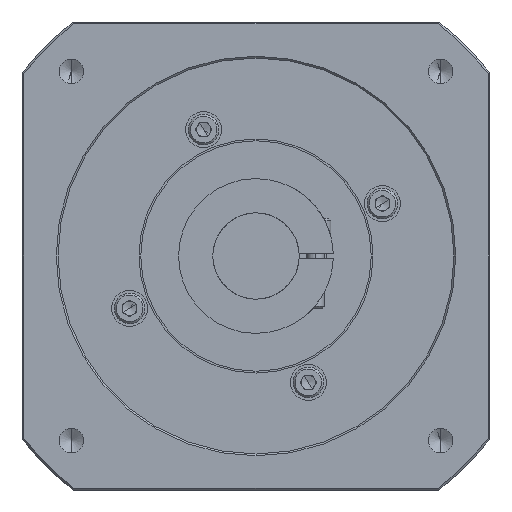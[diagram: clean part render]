
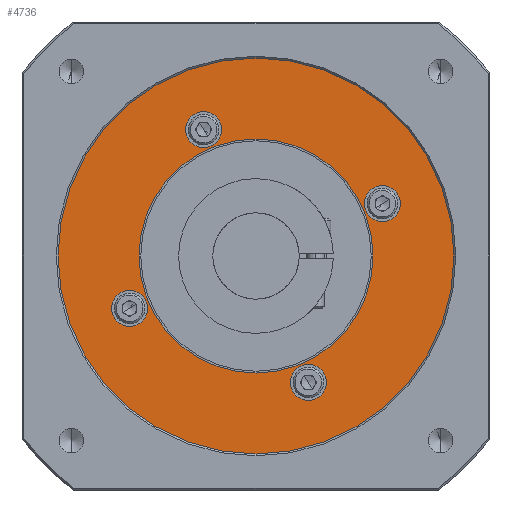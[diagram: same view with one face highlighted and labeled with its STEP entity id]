
A CAD part, front view. The second image highlights one B-rep face of the part: STEP entity #4736.
In plain terms, the highlighted planar face has unit normal (0, -1, 0).
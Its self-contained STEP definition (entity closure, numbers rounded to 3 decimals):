
#2039 = CARTESIAN_POINT ( 'NONE',  ( 35.107, 10., 19.542 ) ) ;
#2249 = CARTESIAN_POINT ( 'NONE',  ( -14.542, 10., 35.107 ) ) ;
#2264 = CARTESIAN_POINT ( 'NONE',  ( -14.542, 10., 30.107 ) ) ;
#2305 = DIRECTION ( 'NONE',  ( 0., 0., -1. ) ) ;
#2306 = DIRECTION ( 'NONE',  ( 0., -1., 0. ) ) ;
#2309 = AXIS2_PLACEMENT_3D ( 'NONE', #2249, #2306, #2305 ) ;
#2316 = CARTESIAN_POINT ( 'NONE',  ( -14.542, 10., 40.107 ) ) ;
#2322 = CIRCLE ( 'NONE', #2309, 5. ) ;
#3262 = VERTEX_POINT ( 'NONE', #7361 ) ;
#3280 = EDGE_CURVE ( 'NONE', #3262, #3294, #7254, .T. ) ;
#3294 = VERTEX_POINT ( 'NONE', #7594 ) ;
#3318 = VERTEX_POINT ( 'NONE', #7709 ) ;
#3322 = EDGE_CURVE ( 'NONE', #3467, #3318, #7665, .T. ) ;
#3323 = VERTEX_POINT ( 'NONE', #2264 ) ;
#3329 = EDGE_CURVE ( 'NONE', #3335, #3323, #2322, .T. ) ;
#3335 = VERTEX_POINT ( 'NONE', #2316 ) ;
#3467 = VERTEX_POINT ( 'NONE', #2039 ) ;
#3979 = EDGE_CURVE ( 'NONE', #4088, #4017, #6402, .T. ) ;
#4017 = VERTEX_POINT ( 'NONE', #4863 ) ;
#4088 = VERTEX_POINT ( 'NONE', #4965 ) ;
#4360 = EDGE_CURVE ( 'NONE', #4361, #4389, #5587, .T. ) ;
#4361 = VERTEX_POINT ( 'NONE', #5548 ) ;
#4389 = VERTEX_POINT ( 'NONE', #5746 ) ;
#4446 = VERTEX_POINT ( 'NONE', #5630 ) ;
#4448 = VERTEX_POINT ( 'NONE', #5629 ) ;
#4503 = EDGE_CURVE ( 'NONE', #4448, #4446, #5921, .T. ) ;
#4642 = EDGE_LOOP ( 'NONE', ( #4747, #4732 ) ) ;
#4686 = EDGE_LOOP ( 'NONE', ( #4750, #4728 ) ) ;
#4693 = EDGE_LOOP ( 'NONE', ( #4717, #4731 ) ) ;
#4716 = EDGE_LOOP ( 'NONE', ( #4727, #4754 ) ) ;
#4717 = ORIENTED_EDGE ( 'NONE', *, *, #4730, .T. ) ;
#4725 = ORIENTED_EDGE ( 'NONE', *, *, #3280, .F. ) ;
#4726 = EDGE_CURVE ( 'NONE', #4017, #4088, #10401, .T. ) ;
#4727 = ORIENTED_EDGE ( 'NONE', *, *, #4756, .F. ) ;
#4728 = ORIENTED_EDGE ( 'NONE', *, *, #4746, .F. ) ;
#4730 = EDGE_CURVE ( 'NONE', #4389, #4361, #10356, .T. ) ;
#4731 = ORIENTED_EDGE ( 'NONE', *, *, #4360, .T. ) ;
#4732 = ORIENTED_EDGE ( 'NONE', *, *, #4726, .F. ) ;
#4736 = ADVANCED_FACE ( 'NONE', ( #10461, #10483, #10471, #10466, #10468, #10508 ), #10467, .T. ) ;
#4746 = EDGE_CURVE ( 'NONE', #3318, #3467, #10460, .T. ) ;
#4747 = ORIENTED_EDGE ( 'NONE', *, *, #3979, .F. ) ;
#4749 = EDGE_LOOP ( 'NONE', ( #4763, #4779 ) ) ;
#4750 = ORIENTED_EDGE ( 'NONE', *, *, #3322, .F. ) ;
#4751 = EDGE_CURVE ( 'NONE', #3294, #3262, #10355, .T. ) ;
#4754 = ORIENTED_EDGE ( 'NONE', *, *, #4503, .F. ) ;
#4756 = EDGE_CURVE ( 'NONE', #4446, #4448, #10567, .T. ) ;
#4763 = ORIENTED_EDGE ( 'NONE', *, *, #3329, .F. ) ;
#4769 = ORIENTED_EDGE ( 'NONE', *, *, #4751, .F. ) ;
#4777 = EDGE_LOOP ( 'NONE', ( #4725, #4769 ) ) ;
#4778 = EDGE_CURVE ( 'NONE', #3323, #3335, #10577, .T. ) ;
#4779 = ORIENTED_EDGE ( 'NONE', *, *, #4778, .F. ) ;
#4863 = CARTESIAN_POINT ( 'NONE',  ( 14.542, 10., -40.107 ) ) ;
#4965 = CARTESIAN_POINT ( 'NONE',  ( 14.542, 10., -30.107 ) ) ;
#5548 = CARTESIAN_POINT ( 'NONE',  ( 0., 10., -32.5 ) ) ;
#5585 = AXIS2_PLACEMENT_3D ( 'NONE', #5606, #5605, #5604 ) ;
#5587 = CIRCLE ( 'NONE', #5585, 32.5 ) ;
#5604 = DIRECTION ( 'NONE',  ( 0., 0., 1. ) ) ;
#5605 = DIRECTION ( 'NONE',  ( 0., 1., 0. ) ) ;
#5606 = CARTESIAN_POINT ( 'NONE',  ( 0., 10., 0. ) ) ;
#5629 = CARTESIAN_POINT ( 'NONE',  ( 0., 10., -55. ) ) ;
#5630 = CARTESIAN_POINT ( 'NONE',  ( 0., 10., 55. ) ) ;
#5746 = CARTESIAN_POINT ( 'NONE',  ( 0., 10., 32.5 ) ) ;
#5813 = DIRECTION ( 'NONE',  ( 0., 0., 1. ) ) ;
#5861 = CARTESIAN_POINT ( 'NONE',  ( 0., 10., 0. ) ) ;
#5921 = CIRCLE ( 'NONE', #5933, 55. ) ;
#5933 = AXIS2_PLACEMENT_3D ( 'NONE', #5861, #5949, #5813 ) ;
#5949 = DIRECTION ( 'NONE',  ( 0., 1., 0. ) ) ;
#6402 = CIRCLE ( 'NONE', #6414, 5. ) ;
#6410 = DIRECTION ( 'NONE',  ( 0., -1., 0. ) ) ;
#6414 = AXIS2_PLACEMENT_3D ( 'NONE', #6438, #6410, #6424 ) ;
#6424 = DIRECTION ( 'NONE',  ( 0., 0., -1. ) ) ;
#6438 = CARTESIAN_POINT ( 'NONE',  ( 14.542, 10., -35.107 ) ) ;
#7254 = CIRCLE ( 'NONE', #7304, 5. ) ;
#7304 = AXIS2_PLACEMENT_3D ( 'NONE', #7362, #7384, #7438 ) ;
#7361 = CARTESIAN_POINT ( 'NONE',  ( -35.107, 10., -9.542 ) ) ;
#7362 = CARTESIAN_POINT ( 'NONE',  ( -35.107, 10., -14.542 ) ) ;
#7384 = DIRECTION ( 'NONE',  ( 0., -1., 0. ) ) ;
#7438 = DIRECTION ( 'NONE',  ( 0., 0., -1. ) ) ;
#7594 = CARTESIAN_POINT ( 'NONE',  ( -35.107, 10., -19.542 ) ) ;
#7665 = CIRCLE ( 'NONE', #7671, 5. ) ;
#7669 = DIRECTION ( 'NONE',  ( 0., -1., 0. ) ) ;
#7670 = CARTESIAN_POINT ( 'NONE',  ( 35.107, 10., 14.542 ) ) ;
#7671 = AXIS2_PLACEMENT_3D ( 'NONE', #7670, #7669, #7703 ) ;
#7703 = DIRECTION ( 'NONE',  ( 0., 0., -1. ) ) ;
#7709 = CARTESIAN_POINT ( 'NONE',  ( 35.107, 10., 9.542 ) ) ;
#10256 = AXIS2_PLACEMENT_3D ( 'NONE', #10258, #10266, #10270 ) ;
#10258 = CARTESIAN_POINT ( 'NONE',  ( 0., 10., 0. ) ) ;
#10266 = DIRECTION ( 'NONE',  ( 0., 1., 0. ) ) ;
#10270 = DIRECTION ( 'NONE',  ( 0., 0., 1. ) ) ;
#10355 = CIRCLE ( 'NONE', #10373, 5. ) ;
#10356 = CIRCLE ( 'NONE', #10256, 32.5 ) ;
#10370 = DIRECTION ( 'NONE',  ( 0., 0., -1. ) ) ;
#10371 = DIRECTION ( 'NONE',  ( 0., -1., 0. ) ) ;
#10372 = CARTESIAN_POINT ( 'NONE',  ( -35.107, 10., -14.542 ) ) ;
#10373 = AXIS2_PLACEMENT_3D ( 'NONE', #10372, #10371, #10370 ) ;
#10401 = CIRCLE ( 'NONE', #10412, 5. ) ;
#10409 = DIRECTION ( 'NONE',  ( 0., 0., -1. ) ) ;
#10410 = DIRECTION ( 'NONE',  ( 0., -1., 0. ) ) ;
#10411 = CARTESIAN_POINT ( 'NONE',  ( 14.542, 10., -35.107 ) ) ;
#10412 = AXIS2_PLACEMENT_3D ( 'NONE', #10411, #10410, #10409 ) ;
#10457 = DIRECTION ( 'NONE',  ( 0., 0., -1. ) ) ;
#10458 = DIRECTION ( 'NONE',  ( 0., -1., 0. ) ) ;
#10459 = AXIS2_PLACEMENT_3D ( 'NONE', #10497, #10458, #10457 ) ;
#10460 = CIRCLE ( 'NONE', #10459, 5. ) ;
#10461 = FACE_BOUND ( 'NONE', #4777, .T. ) ;
#10466 = FACE_BOUND ( 'NONE', #4642, .T. ) ;
#10467 = PLANE ( 'NONE',  #10501 ) ;
#10468 = FACE_BOUND ( 'NONE', #4693, .T. ) ;
#10471 = FACE_BOUND ( 'NONE', #4686, .T. ) ;
#10483 = FACE_BOUND ( 'NONE', #4749, .T. ) ;
#10484 = DIRECTION ( 'NONE',  ( 0., 0., -1. ) ) ;
#10496 = DIRECTION ( 'NONE',  ( 0., -1., 0. ) ) ;
#10497 = CARTESIAN_POINT ( 'NONE',  ( 35.107, 10., 14.542 ) ) ;
#10501 = AXIS2_PLACEMENT_3D ( 'NONE', #10514, #10496, #10484 ) ;
#10508 = FACE_OUTER_BOUND ( 'NONE', #4716, .T. ) ;
#10514 = CARTESIAN_POINT ( 'NONE',  ( -55., 10., 0. ) ) ;
#10549 = AXIS2_PLACEMENT_3D ( 'NONE', #10570, #10562, #10571 ) ;
#10562 = DIRECTION ( 'NONE',  ( 0., 1., 0. ) ) ;
#10567 = CIRCLE ( 'NONE', #10549, 55. ) ;
#10570 = CARTESIAN_POINT ( 'NONE',  ( 0., 10., 0. ) ) ;
#10571 = DIRECTION ( 'NONE',  ( 0., 0., 1. ) ) ;
#10577 = CIRCLE ( 'NONE', #10621, 5. ) ;
#10594 = DIRECTION ( 'NONE',  ( 0., 0., -1. ) ) ;
#10595 = DIRECTION ( 'NONE',  ( 0., -1., 0. ) ) ;
#10621 = AXIS2_PLACEMENT_3D ( 'NONE', #10647, #10595, #10594 ) ;
#10647 = CARTESIAN_POINT ( 'NONE',  ( -14.542, 10., 35.107 ) ) ;
